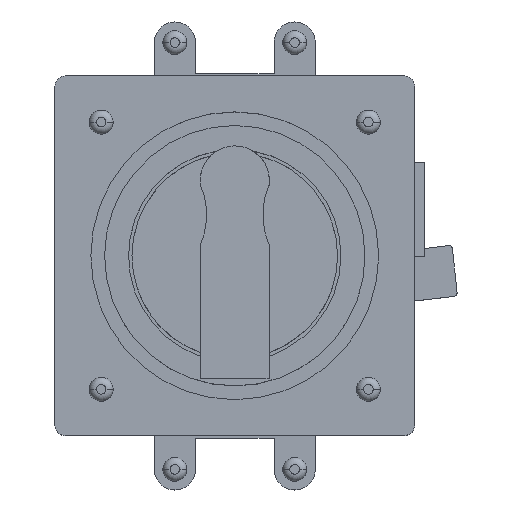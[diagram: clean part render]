
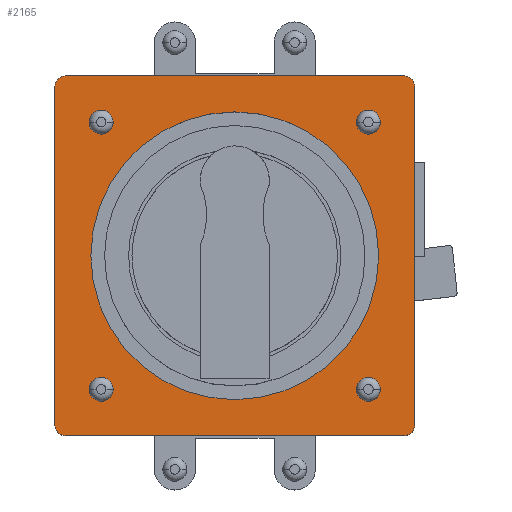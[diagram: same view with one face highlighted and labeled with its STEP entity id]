
A CAD part, top view. The second image highlights one B-rep face of the part: STEP entity #2165.
In plain terms, the highlighted planar face has unit normal (0, 0, 1).
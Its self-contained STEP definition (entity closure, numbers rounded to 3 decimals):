
#1285 = EDGE_CURVE( '', #2257, #2023, #3581, .T. );
#1291 = VERTEX_POINT( '', #3587 );
#1293 = VERTEX_POINT( '', #3589 );
#1329 = EDGE_CURVE( '', #2789, #3179, #3627, .T. );
#1475 = VERTEX_POINT( '', #3788 );
#1709 = EDGE_CURVE( '', #2669, #3069, #4048, .T. );
#1865 = EDGE_CURVE( '', #1291, #1293, #4230, .T. );
#1911 = EDGE_CURVE( '', #3179, #2013, #4285, .T. );
#2013 = VERTEX_POINT( '', #4394 );
#2023 = VERTEX_POINT( '', #4407 );
#2037 = EDGE_CURVE( '', #2013, #2141, #4423, .T. );
#2051 = EDGE_CURVE( '', #2963, #3463, #4439, .T. );
#2073 = EDGE_CURVE( '', #3463, #2789, #4462, .T. );
#2141 = VERTEX_POINT( '', #4533 );
#2165 = ADVANCED_FACE( '', ( #4561, #4562, #4563, #4564, #4565, #4566 ), #4567, .T. );
#2175 = EDGE_CURVE( '', #2417, #2921, #4578, .T. );
#2257 = VERTEX_POINT( '', #4667 );
#2417 = VERTEX_POINT( '', #4853 );
#2665 = EDGE_CURVE( '', #1293, #2963, #5127, .T. );
#2669 = VERTEX_POINT( '', #5131 );
#2789 = VERTEX_POINT( '', #5263 );
#2851 = VERTEX_POINT( '', #5339 );
#2901 = EDGE_CURVE( '', #2023, #2257, #5396, .T. );
#2921 = VERTEX_POINT( '', #5421 );
#2963 = VERTEX_POINT( '', #5465 );
#3069 = VERTEX_POINT( '', #5578 );
#3081 = EDGE_CURVE( '', #1475, #3383, #5590, .T. );
#3101 = VERTEX_POINT( '', #5613 );
#3133 = EDGE_CURVE( '', #2851, #3101, #5646, .T. );
#3179 = VERTEX_POINT( '', #5697 );
#3195 = EDGE_CURVE( '', #3101, #2851, #5713, .T. );
#3203 = EDGE_CURVE( '', #2921, #2417, #5721, .T. );
#3303 = EDGE_CURVE( '', #3069, #2669, #5826, .T. );
#3347 = EDGE_CURVE( '', #3383, #1475, #5883, .T. );
#3361 = EDGE_CURVE( '', #2141, #1291, #5897, .T. );
#3383 = VERTEX_POINT( '', #5920 );
#3463 = VERTEX_POINT( '', #6006 );
#3581 = CIRCLE( '', #6155, 2. );
#3587 = CARTESIAN_POINT( '', ( 52.5, 49.5, 14.5 ) );
#3589 = CARTESIAN_POINT( '', ( 52.5, -49.5, 14.5 ) );
#3627 = LINE( '', #6218, #6219 );
#3788 = CARTESIAN_POINT( '', ( -41., -39., 14.5 ) );
#4048 = CIRCLE( '', #6767, 42. );
#4230 = LINE( '', #7012, #7013 );
#4285 = CIRCLE( '', #7082, 3. );
#4394 = CARTESIAN_POINT( '', ( -49.5, 52.5, 14.5 ) );
#4407 = CARTESIAN_POINT( '', ( -37., 39., 14.5 ) );
#4423 = LINE( '', #7268, #7269 );
#4439 = LINE( '', #7288, #7289 );
#4462 = CIRCLE( '', #7321, 3. );
#4533 = CARTESIAN_POINT( '', ( 49.5, 52.5, 14.5 ) );
#4561 = FACE_BOUND( '', #7463, .T. );
#4562 = FACE_BOUND( '', #7464, .T. );
#4563 = FACE_BOUND( '', #7465, .T. );
#4564 = FACE_BOUND( '', #7466, .T. );
#4565 = FACE_BOUND( '', #7467, .T. );
#4566 = FACE_OUTER_BOUND( '', #7468, .T. );
#4567 = PLANE( '', #7469 );
#4578 = CIRCLE( '', #7486, 2. );
#4667 = CARTESIAN_POINT( '', ( -41., 39., 14.5 ) );
#4853 = CARTESIAN_POINT( '', ( 41., 39., 14.5 ) );
#5127 = CIRCLE( '', #8197, 3. );
#5131 = CARTESIAN_POINT( '', ( -42., 0., 14.5 ) );
#5263 = CARTESIAN_POINT( '', ( -52.5, -49.5, 14.5 ) );
#5339 = CARTESIAN_POINT( '', ( 41., -39., 14.5 ) );
#5396 = CIRCLE( '', #8547, 2. );
#5421 = CARTESIAN_POINT( '', ( 37., 39., 14.5 ) );
#5465 = CARTESIAN_POINT( '', ( 49.5, -52.5, 14.5 ) );
#5578 = CARTESIAN_POINT( '', ( 42., 0., 14.5 ) );
#5590 = CIRCLE( '', #8813, 2. );
#5613 = CARTESIAN_POINT( '', ( 37., -39., 14.5 ) );
#5646 = CIRCLE( '', #8892, 2. );
#5697 = CARTESIAN_POINT( '', ( -52.5, 49.5, 14.5 ) );
#5713 = CIRCLE( '', #8984, 2. );
#5721 = CIRCLE( '', #8996, 2. );
#5826 = CIRCLE( '', #9141, 42. );
#5883 = CIRCLE( '', #9210, 2. );
#5897 = CIRCLE( '', #9229, 3. );
#5920 = CARTESIAN_POINT( '', ( -37., -39., 14.5 ) );
#6006 = CARTESIAN_POINT( '', ( -49.5, -52.5, 14.5 ) );
#6155 = AXIS2_PLACEMENT_3D( '', #9438, #9439, #9440 );
#6218 = CARTESIAN_POINT( '', ( -52.5, 49.5, 14.5 ) );
#6219 = VECTOR( '', #9475, 1. );
#6767 = AXIS2_PLACEMENT_3D( '', #9967, #9968, #9969 );
#7012 = CARTESIAN_POINT( '', ( 52.5, -49.5, 14.5 ) );
#7013 = VECTOR( '', #10203, 1. );
#7082 = AXIS2_PLACEMENT_3D( '', #10292, #10293, #10294 );
#7268 = CARTESIAN_POINT( '', ( 49.5, 52.5, 14.5 ) );
#7269 = VECTOR( '', #10455, 1. );
#7288 = CARTESIAN_POINT( '', ( -49.5, -52.5, 14.5 ) );
#7289 = VECTOR( '', #10479, 1. );
#7321 = AXIS2_PLACEMENT_3D( '', #10497, #10498, #10499 );
#7463 = EDGE_LOOP( '', ( #10602, #10603 ) );
#7464 = EDGE_LOOP( '', ( #10604, #10605 ) );
#7465 = EDGE_LOOP( '', ( #10606, #10607 ) );
#7466 = EDGE_LOOP( '', ( #10608, #10609 ) );
#7467 = EDGE_LOOP( '', ( #10610, #10611 ) );
#7468 = EDGE_LOOP( '', ( #10612, #10613, #10614, #10615, #10616, #10617, #10618, #10619 ) );
#7469 = AXIS2_PLACEMENT_3D( '', #10620, #10621, #10622 );
#7486 = AXIS2_PLACEMENT_3D( '', #10637, #10638, #10639 );
#8197 = AXIS2_PLACEMENT_3D( '', #11346, #11347, #11348 );
#8547 = AXIS2_PLACEMENT_3D( '', #11692, #11693, #11694 );
#8813 = AXIS2_PLACEMENT_3D( '', #11913, #11914, #11915 );
#8892 = AXIS2_PLACEMENT_3D( '', #11962, #11963, #11964 );
#8984 = AXIS2_PLACEMENT_3D( '', #12031, #12032, #12033 );
#8996 = AXIS2_PLACEMENT_3D( '', #12043, #12044, #12045 );
#9141 = AXIS2_PLACEMENT_3D( '', #12138, #12139, #12140 );
#9210 = AXIS2_PLACEMENT_3D( '', #12236, #12237, #12238 );
#9229 = AXIS2_PLACEMENT_3D( '', #12245, #12246, #12247 );
#9438 = CARTESIAN_POINT( '', ( -39., 39., 14.5 ) );
#9439 = DIRECTION( '', ( 0., 0., -1. ) );
#9440 = DIRECTION( '', ( 1., 0., 0. ) );
#9475 = DIRECTION( '', ( 0., 1., 0. ) );
#9967 = CARTESIAN_POINT( '', ( 0., 0., 14.5 ) );
#9968 = DIRECTION( '', ( 0., 0., -1. ) );
#9969 = DIRECTION( '', ( 1., 0., 0. ) );
#10203 = DIRECTION( '', ( 0., -1., 0. ) );
#10292 = CARTESIAN_POINT( '', ( -49.5, 49.5, 14.5 ) );
#10293 = DIRECTION( '', ( 0., 0., -1. ) );
#10294 = DIRECTION( '', ( 0., 1., 0. ) );
#10455 = DIRECTION( '', ( 1., 0., 0. ) );
#10479 = DIRECTION( '', ( -1., 0., 0. ) );
#10497 = CARTESIAN_POINT( '', ( -49.5, -49.5, 14.5 ) );
#10498 = DIRECTION( '', ( 0., 0., -1. ) );
#10499 = DIRECTION( '', ( -1., 0., 0. ) );
#10602 = ORIENTED_EDGE( '', *, *, #3133, .T. );
#10603 = ORIENTED_EDGE( '', *, *, #3195, .T. );
#10604 = ORIENTED_EDGE( '', *, *, #3347, .T. );
#10605 = ORIENTED_EDGE( '', *, *, #3081, .T. );
#10606 = ORIENTED_EDGE( '', *, *, #2175, .T. );
#10607 = ORIENTED_EDGE( '', *, *, #3203, .T. );
#10608 = ORIENTED_EDGE( '', *, *, #2901, .T. );
#10609 = ORIENTED_EDGE( '', *, *, #1285, .T. );
#10610 = ORIENTED_EDGE( '', *, *, #3303, .T. );
#10611 = ORIENTED_EDGE( '', *, *, #1709, .T. );
#10612 = ORIENTED_EDGE( '', *, *, #1329, .F. );
#10613 = ORIENTED_EDGE( '', *, *, #2073, .F. );
#10614 = ORIENTED_EDGE( '', *, *, #2051, .F. );
#10615 = ORIENTED_EDGE( '', *, *, #2665, .F. );
#10616 = ORIENTED_EDGE( '', *, *, #1865, .F. );
#10617 = ORIENTED_EDGE( '', *, *, #3361, .F. );
#10618 = ORIENTED_EDGE( '', *, *, #2037, .F. );
#10619 = ORIENTED_EDGE( '', *, *, #1911, .F. );
#10620 = CARTESIAN_POINT( '', ( 0., 0., 14.5 ) );
#10621 = DIRECTION( '', ( 0., 0., 1. ) );
#10622 = DIRECTION( '', ( 1., 0., 0. ) );
#10637 = CARTESIAN_POINT( '', ( 39., 39., 14.5 ) );
#10638 = DIRECTION( '', ( 0., 0., -1. ) );
#10639 = DIRECTION( '', ( 1., 0., 0. ) );
#11346 = CARTESIAN_POINT( '', ( 49.5, -49.5, 14.5 ) );
#11347 = DIRECTION( '', ( 0., 0., -1. ) );
#11348 = DIRECTION( '', ( 0., -1., 0. ) );
#11692 = CARTESIAN_POINT( '', ( -39., 39., 14.5 ) );
#11693 = DIRECTION( '', ( 0., 0., -1. ) );
#11694 = DIRECTION( '', ( 1., 0., 0. ) );
#11913 = CARTESIAN_POINT( '', ( -39., -39., 14.5 ) );
#11914 = DIRECTION( '', ( 0., 0., -1. ) );
#11915 = DIRECTION( '', ( 1., 0., 0. ) );
#11962 = CARTESIAN_POINT( '', ( 39., -39., 14.5 ) );
#11963 = DIRECTION( '', ( 0., 0., -1. ) );
#11964 = DIRECTION( '', ( 1., 0., 0. ) );
#12031 = CARTESIAN_POINT( '', ( 39., -39., 14.5 ) );
#12032 = DIRECTION( '', ( 0., 0., -1. ) );
#12033 = DIRECTION( '', ( 1., 0., 0. ) );
#12043 = CARTESIAN_POINT( '', ( 39., 39., 14.5 ) );
#12044 = DIRECTION( '', ( 0., 0., -1. ) );
#12045 = DIRECTION( '', ( 1., 0., 0. ) );
#12138 = CARTESIAN_POINT( '', ( 0., 0., 14.5 ) );
#12139 = DIRECTION( '', ( 0., 0., -1. ) );
#12140 = DIRECTION( '', ( 1., 0., 0. ) );
#12236 = CARTESIAN_POINT( '', ( -39., -39., 14.5 ) );
#12237 = DIRECTION( '', ( 0., 0., -1. ) );
#12238 = DIRECTION( '', ( 1., 0., 0. ) );
#12245 = CARTESIAN_POINT( '', ( 49.5, 49.5, 14.5 ) );
#12246 = DIRECTION( '', ( 0., 0., -1. ) );
#12247 = DIRECTION( '', ( 1., 0., 0. ) );
